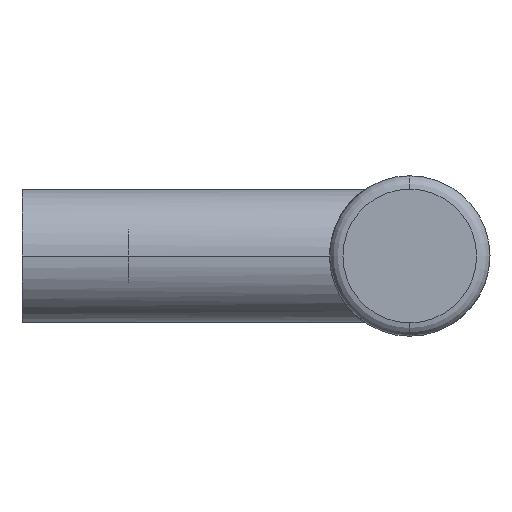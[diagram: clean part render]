
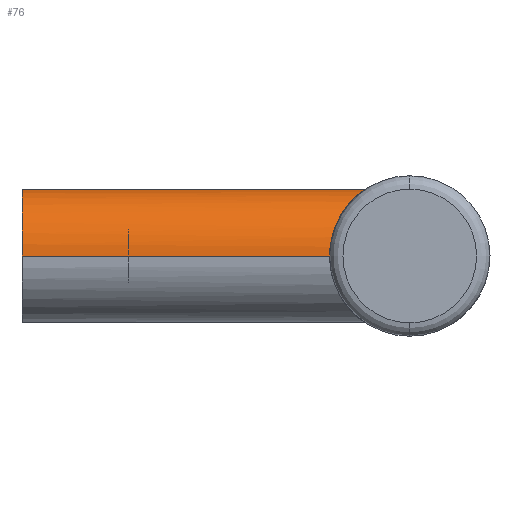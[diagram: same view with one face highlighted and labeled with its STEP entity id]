
A CAD part, left-side view. The second image highlights one B-rep face of the part: STEP entity #76.
In plain terms, the highlighted cylindrical face has radius 5 mm (diameter 10 mm), a partial arc.
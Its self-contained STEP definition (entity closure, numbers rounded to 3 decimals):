
#76 = ADVANCED_FACE( '', ( #104 ), #105, .T. );
#104 = FACE_OUTER_BOUND( '', #162, .T. );
#105 = CYLINDRICAL_SURFACE( '', #163, 5. );
#162 = EDGE_LOOP( '', ( #226, #227, #228, #229, #230 ) );
#163 = AXIS2_PLACEMENT_3D( '', #231, #232, #233 );
#226 = ORIENTED_EDGE( '', *, *, #415, .F. );
#227 = ORIENTED_EDGE( '', *, *, #416, .F. );
#228 = ORIENTED_EDGE( '', *, *, #417, .F. );
#229 = ORIENTED_EDGE( '', *, *, #418, .F. );
#230 = ORIENTED_EDGE( '', *, *, #419, .F. );
#231 = CARTESIAN_POINT( '', ( 0., 0., 0. ) );
#232 = DIRECTION( '', ( 0., 1., 0. ) );
#233 = DIRECTION( '', ( 1., 0., 0. ) );
#415 = EDGE_CURVE( '', #477, #478, #479, .T. );
#416 = EDGE_CURVE( '', #480, #477, #481, .T. );
#417 = EDGE_CURVE( '', #482, #480, #483, .T. );
#418 = EDGE_CURVE( '', #484, #482, #485, .T. );
#419 = EDGE_CURVE( '', #478, #484, #486, .T. );
#477 = VERTEX_POINT( '', #609 );
#478 = VERTEX_POINT( '', #610 );
#479 = LINE( '', #611, #612 );
#480 = VERTEX_POINT( '', #613 );
#481 = CIRCLE( '', #614, 5. );
#482 = VERTEX_POINT( '', #615 );
#483 = LINE( '', #616, #617 );
#484 = VERTEX_POINT( '', #618 );
#485 = B_SPLINE_CURVE_WITH_KNOTS( '', 3, ( #619, #620, #621, #622, #623, #624, #625, #626, #627, #628, #629, #630, #631, #632, #633, #634, #635, #636 ), .UNSPECIFIED., .F., .F., ( 4, 2, 2, 2, 2, 2, 2, 2, 4 ), ( 0., 1.041, 2.083, 3.124, 4.165, 5.164, 6.163, 7.162, 8.161 ), .UNSPECIFIED. );
#486 = B_SPLINE_CURVE_WITH_KNOTS( '', 3, ( #637, #638, #639, #640, #641, #642, #643, #644, #645, #646, #647, #648, #649, #650, #651, #652, #653, #654 ), .UNSPECIFIED., .F., .F., ( 4, 2, 2, 2, 2, 2, 2, 2, 4 ), ( 24.483, 25.482, 26.481, 27.479, 28.478, 29.52, 30.561, 31.602, 32.643 ), .UNSPECIFIED. );
#609 = CARTESIAN_POINT( '', ( 5., 0., 0. ) );
#610 = CARTESIAN_POINT( '', ( 5., -23., 0. ) );
#611 = CARTESIAN_POINT( '', ( 5., 0., 0. ) );
#612 = VECTOR( '', #879, 1. );
#613 = CARTESIAN_POINT( '', ( -5., 0., 0. ) );
#614 = AXIS2_PLACEMENT_3D( '', #880, #881, #882 );
#615 = CARTESIAN_POINT( '', ( -5., -23., 0. ) );
#616 = CARTESIAN_POINT( '', ( -5., 0., 0. ) );
#617 = VECTOR( '', #883, 1. );
#618 = CARTESIAN_POINT( '', ( 0., -25.683, 5. ) );
#619 = CARTESIAN_POINT( '', ( 0., -25.683, 5. ) );
#620 = CARTESIAN_POINT( '', ( -0.347, -25.683, 5. ) );
#621 = CARTESIAN_POINT( '', ( -0.687, -25.627, 4.964 ) );
#622 = CARTESIAN_POINT( '', ( -1.343, -25.436, 4.828 ) );
#623 = CARTESIAN_POINT( '', ( -1.659, -25.301, 4.728 ) );
#624 = CARTESIAN_POINT( '', ( -2.259, -24.995, 4.472 ) );
#625 = CARTESIAN_POINT( '', ( -2.544, -24.825, 4.316 ) );
#626 = CARTESIAN_POINT( '', ( -3.073, -24.483, 3.957 ) );
#627 = CARTESIAN_POINT( '', ( -3.317, -24.311, 3.754 ) );
#628 = CARTESIAN_POINT( '', ( -3.745, -24., 3.326 ) );
#629 = CARTESIAN_POINT( '', ( -3.946, -23.847, 3.088 ) );
#630 = CARTESIAN_POINT( '', ( -4.306, -23.566, 2.561 ) );
#631 = CARTESIAN_POINT( '', ( -4.467, -23.437, 2.272 ) );
#632 = CARTESIAN_POINT( '', ( -4.728, -23.225, 1.659 ) );
#633 = CARTESIAN_POINT( '', ( -4.83, -23.141, 1.335 ) );
#634 = CARTESIAN_POINT( '', ( -4.966, -23.028, 0.672 ) );
#635 = CARTESIAN_POINT( '', ( -5., -23., 0.333 ) );
#636 = CARTESIAN_POINT( '', ( -5., -23., 0. ) );
#637 = CARTESIAN_POINT( '', ( 5., -23., 0. ) );
#638 = CARTESIAN_POINT( '', ( 5., -23., 0.333 ) );
#639 = CARTESIAN_POINT( '', ( 4.966, -23.028, 0.672 ) );
#640 = CARTESIAN_POINT( '', ( 4.83, -23.141, 1.335 ) );
#641 = CARTESIAN_POINT( '', ( 4.728, -23.225, 1.659 ) );
#642 = CARTESIAN_POINT( '', ( 4.467, -23.437, 2.272 ) );
#643 = CARTESIAN_POINT( '', ( 4.306, -23.566, 2.561 ) );
#644 = CARTESIAN_POINT( '', ( 3.946, -23.847, 3.088 ) );
#645 = CARTESIAN_POINT( '', ( 3.745, -24., 3.326 ) );
#646 = CARTESIAN_POINT( '', ( 3.317, -24.311, 3.754 ) );
#647 = CARTESIAN_POINT( '', ( 3.073, -24.483, 3.957 ) );
#648 = CARTESIAN_POINT( '', ( 2.544, -24.825, 4.316 ) );
#649 = CARTESIAN_POINT( '', ( 2.259, -24.995, 4.472 ) );
#650 = CARTESIAN_POINT( '', ( 1.659, -25.301, 4.728 ) );
#651 = CARTESIAN_POINT( '', ( 1.343, -25.436, 4.828 ) );
#652 = CARTESIAN_POINT( '', ( 0.687, -25.627, 4.964 ) );
#653 = CARTESIAN_POINT( '', ( 0.347, -25.683, 5. ) );
#654 = CARTESIAN_POINT( '', ( 0., -25.683, 5. ) );
#879 = DIRECTION( '', ( 0., -1., 0. ) );
#880 = CARTESIAN_POINT( '', ( 0., 0., 0. ) );
#881 = DIRECTION( '', ( 0., 1., 0. ) );
#882 = DIRECTION( '', ( 1., 0., 0. ) );
#883 = DIRECTION( '', ( 0., 1., 0. ) );
